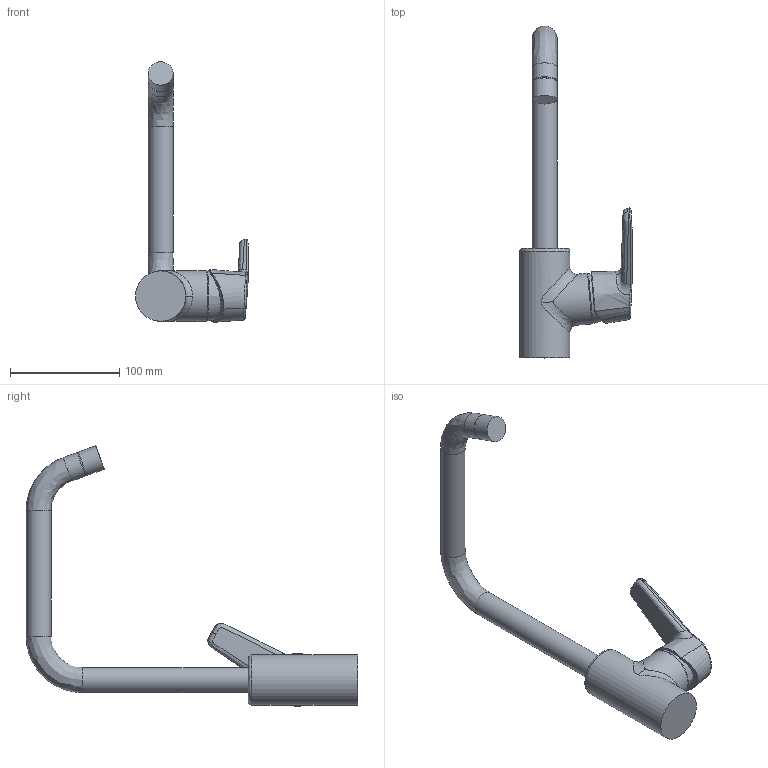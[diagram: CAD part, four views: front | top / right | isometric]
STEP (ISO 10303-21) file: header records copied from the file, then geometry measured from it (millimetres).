
FILE_DESCRIPTION (( 'STEP AP203' ), '1' );
FILE_NAME ('3931F(2016)+51562293.STEP', '2017-03-09T05:51:02', ( '' ), ( '' ), 'SwSTEP 2.0', 'SolidWorks 2016', '' );
FILE_SCHEMA (( 'CONFIG_CONTROL_DESIGN' ));
Length unit declared in the file: millimetre
Products named in the file (1): 3931F(2016)+51562293
Bounding box: 103.2 x 303 x 238.09 mm (x, y, z)
Volume: 446856.2 mm3; surface area: 60150.6 mm2
Topology: 1 solids, 1 shells, 52 faces, 152 edges, 107 vertices
Faces by surface type: bspline 34, plane 8, cylinder 8, torus 1, cone 1
Full cylindrical faces by diameter (mm): 20.876 x1, 22.8 x4, 46 x1
Entity records: 18087 total; most frequent: CARTESIAN_POINT 17007, ORIENTED_EDGE 272, EDGE_CURVE 136, B_SPLINE_CURVE_WITH_KNOTS 108, VERTEX_POINT 103, DIRECTION 85, EDGE_LOOP 69, FACE_OUTER_BOUND 64
